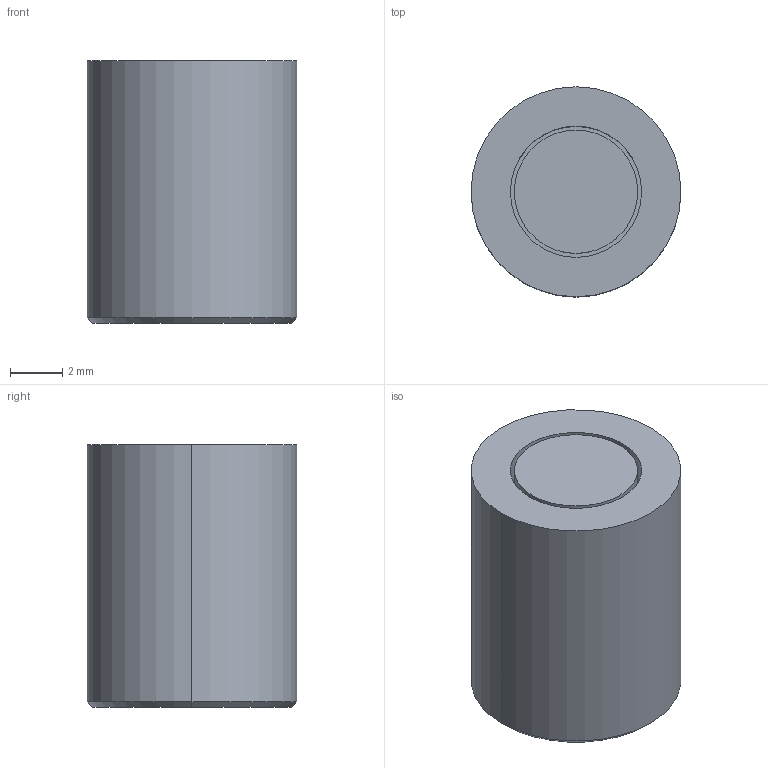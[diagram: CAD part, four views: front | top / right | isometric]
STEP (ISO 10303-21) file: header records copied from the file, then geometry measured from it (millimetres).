
FILE_DESCRIPTION (( 'STEP AP214' ), '1' );
FILE_NAME ('BruyRubio_Blank-8S.STEP', '2019-12-19T17:21:39', ( '' ), ( '' ), 'SwSTEP 2.0', 'SolidWorks 2017', '' );
FILE_SCHEMA (( 'AUTOMOTIVE_DESIGN' ));
Length unit declared in the file: millimetre
Products named in the file (1): BruyRubio_Blank-8S
Bounding box: 8 x 8 x 10 mm (x, y, z)
Volume: 413.8 mm3; surface area: 599.2 mm2
Topology: 2 solids, 2 shells, 18 faces, 34 edges, 22 vertices
Faces by surface type: cylinder 10, plane 6, cone 2
Entity records: 709 total; most frequent: DIRECTION 94, CARTESIAN_POINT 75, ORIENTED_EDGE 68, AXIS2_PLACEMENT_3D 41, EDGE_CURVE 34, EDGE_LOOP 22, CIRCLE 22, VERTEX_POINT 22
